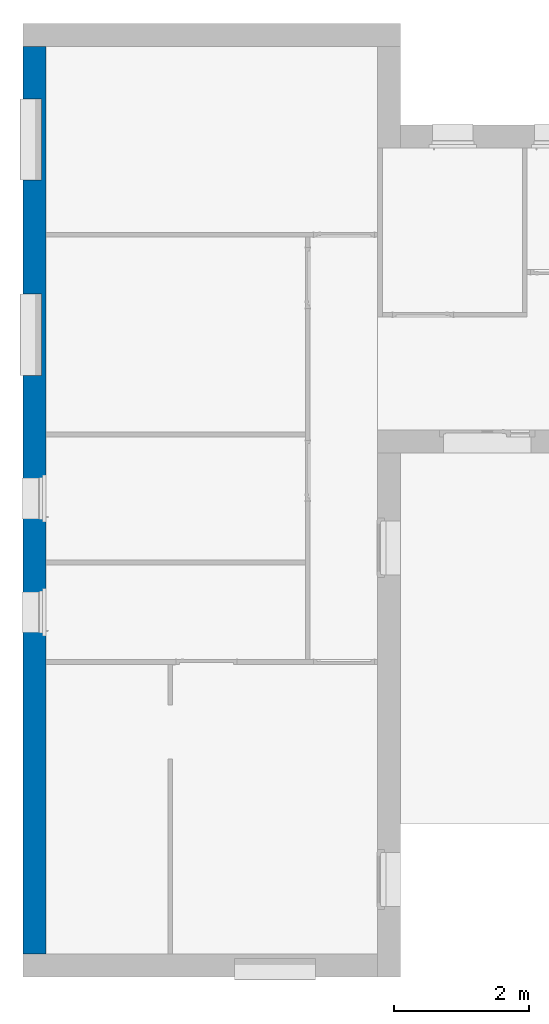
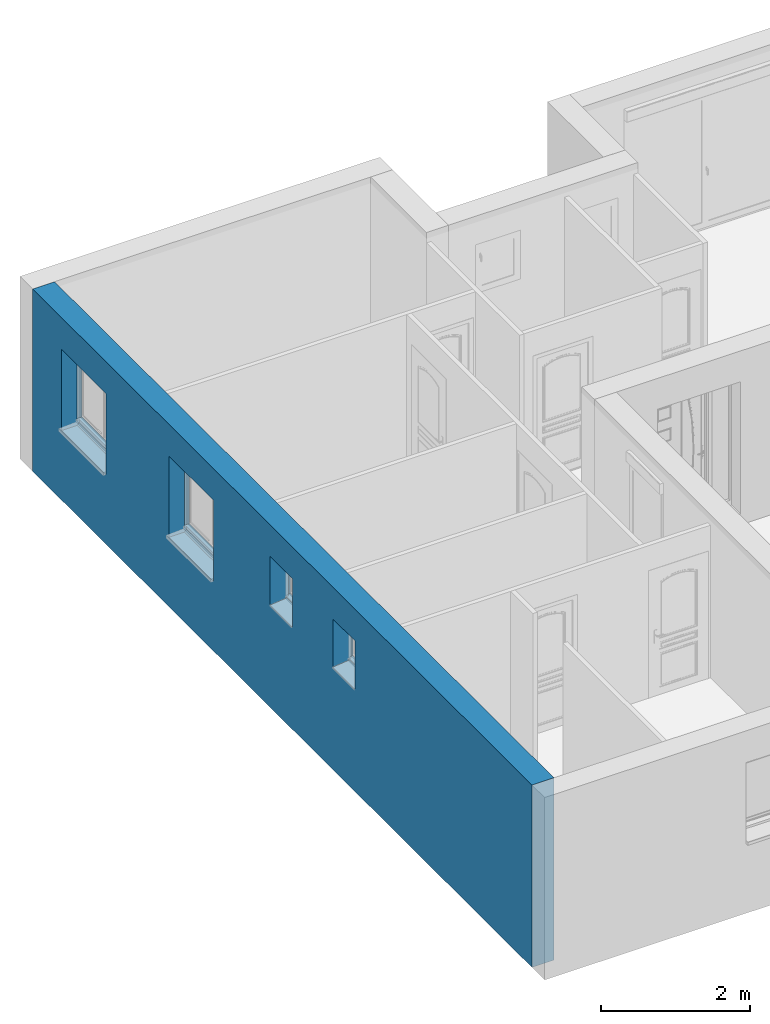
# One storey, part 7 of 23: 1 wall, 4 openings.
"""IFC2X3 building model written with IfcOpenShell, lengths in metres."""

from ifc_helpers import new_model, entity, si_unit, converted_unit, derived_unit, direction, frame, frame_2d, origin, place, context, subcontext, project, spatial, rectangle, extrude, faceted_brep, material, layer, layer_set, layer_usage, type_object, element, save


model = new_model("IFC2X3")

# Units and contexts
model_context = context("Model", 3, precision=1e-05, world=origin(), true_north=direction((6.12303176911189e-17, 1.0)))
body_context = subcontext(model_context, "Body", "Model", "MODEL_VIEW")
ifc_project = project(units=[si_unit("LENGTHUNIT", "METRE"), si_unit("AREAUNIT", "SQUARE_METRE"), si_unit("VOLUMEUNIT", "CUBIC_METRE"), converted_unit("PLANEANGLEUNIT", "DEGREE", entity("IfcRatioMeasure", 0.0174532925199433), si_unit("PLANEANGLEUNIT", "RADIAN"), dimensions=[0, 0, 0, 0, 0, 0, 0]), si_unit("MASSUNIT", "GRAM", prefix="KILO"), derived_unit("MASSDENSITYUNIT", [(si_unit("MASSUNIT", "GRAM", prefix="KILO"), 1), (si_unit("LENGTHUNIT", "METRE"), -3)]), si_unit("TIMEUNIT", "SECOND"), si_unit("FREQUENCYUNIT", "HERTZ"), si_unit("THERMODYNAMICTEMPERATUREUNIT", "DEGREE_CELSIUS"), derived_unit("THERMALTRANSMITTANCEUNIT", [(si_unit("MASSUNIT", "GRAM", prefix="KILO"), 1), (si_unit("THERMODYNAMICTEMPERATUREUNIT", "KELVIN"), -1), (si_unit("TIMEUNIT", "SECOND"), -3)]), derived_unit("VOLUMETRICFLOWRATEUNIT", [(si_unit("LENGTHUNIT", "METRE"), 3), (si_unit("TIMEUNIT", "SECOND"), -1)]), si_unit("ELECTRICCURRENTUNIT", "AMPERE"), si_unit("ELECTRICVOLTAGEUNIT", "VOLT"), si_unit("POWERUNIT", "WATT"), si_unit("FORCEUNIT", "NEWTON", prefix="KILO"), si_unit("ILLUMINANCEUNIT", "LUX"), si_unit("LUMINOUSFLUXUNIT", "LUMEN"), si_unit("LUMINOUSINTENSITYUNIT", "CANDELA"), derived_unit("USERDEFINED", [(si_unit("MASSUNIT", "GRAM", prefix="KILO"), -1), (si_unit("LENGTHUNIT", "METRE"), -2), (si_unit("TIMEUNIT", "SECOND"), 3), (si_unit("LUMINOUSFLUXUNIT", "LUMEN"), 1)]), derived_unit("LINEARVELOCITYUNIT", [(si_unit("LENGTHUNIT", "METRE"), 1), (si_unit("TIMEUNIT", "SECOND"), -1)]), si_unit("PRESSUREUNIT", "PASCAL"), derived_unit("USERDEFINED", [(si_unit("LENGTHUNIT", "METRE"), -2), (si_unit("MASSUNIT", "GRAM", prefix="KILO"), 1), (si_unit("TIMEUNIT", "SECOND"), -2)])], contexts=[model_context])

# Site, building, storey
site_placement = place(None, origin())
site = spatial("IfcSite", under=ifc_project, at=site_placement, Name="Default", CompositionType="ELEMENT")
building_placement = place(site_placement, origin())
building = spatial("IfcBuilding", under=site, at=building_placement, CompositionType="ELEMENT")
storey_placement = place(building_placement, origin())
storey = spatial("IfcBuildingStorey", under=building, at=storey_placement, Name="2 - Rez de Chaussée", CompositionType="ELEMENT", Elevation=-1.94916083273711e-14)

# Wall, openings
ifc_material_1 = material(Name="Maçonnerie - Enduit")
ifc_layer_1 = layer(ifc_material_1, 0.02)
ifc_material_2 = material(Name="Blocs béton manufacturés")
ifc_layer_2 = layer(ifc_material_2, 0.2)
ifc_material_3 = material(Name="TIFE, isolation extérieure")
ifc_layer_3 = layer(ifc_material_3, 0.12)
ifc_layer_set = layer_set([ifc_layer_1, ifc_layer_2, ifc_layer_3], Name="Mur de base:Isolant 10+1 vide 1 Parpaing 20 Enduit 2")
ifc_layer_usage = layer_usage(ifc_layer_set, "AXIS2", "NEGATIVE", 0.17)
wall_type = type_object("IfcWallType", Name="Mur de base:Isolant 10+1 vide 1 Parpaing 20 Enduit 2", PredefinedType="STANDARD", material=ifc_layer_set)
wall_placement = place(storey_placement, frame((-9.76622246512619, -7.11194499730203, -0.32), z_axis=(0.0, 0.0, 1.0), x_axis=(0.0, 1.0, 0.0)))
wall = element("IfcWallStandardCase", 1, at=wall_placement, inside=storey, type_object=wall_type, material=ifc_layer_usage, Name="Mur de base:Isolant 10+1 vide 1 Parpaing 20 Enduit 2", ObjectType="Mur de base:Isolant 10+1 vide 1 Parpaing 20 Enduit 2", context=body_context, shape_type="SweptSolid", body=[
    extrude(rectangle(XDim=13.41, YDim=0.340000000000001, at=frame_2d((6.705, -1.94289029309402e-16), x_axis=(-1.0, 0.0))), origin(), (0.0, 0.0, 1.0), 2.99000000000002),
])
opening_1_placement = place(wall_placement, frame((11.385, 0.499999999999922, 1.14), z_axis=(0.0, 0.0, 1.0), x_axis=(0.0, -1.0, 0.0)))
element("IfcOpeningElement", 2, at=opening_1_placement, cuts=wall, Name="Mur de base:Isolant 10+1 vide 1 Parpaing 20 Enduit 2", ObjectType="Opening", context=body_context, shape_type="Brep", body=[
    faceted_brep([(1.0, 1.25, 1.33), (1.0, 0.0499999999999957, 1.33), (1.0, 0.0499999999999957, 0.0799999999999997), (1.0, 1.25, 0.0799999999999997), (0.0, 1.25, 1.33), (0.0, 1.25, 0.0799999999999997), (0.0, 0.0500000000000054, 0.0799999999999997), (0.0, 0.0500000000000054, 1.33), (0.68300000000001, 1.25, 1.33), (0.683000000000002, 0.0499999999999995, 1.33), (0.683000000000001, 0.0499999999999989, 0.0799999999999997), (0.683000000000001, 0.0100000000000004, 0.0799999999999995), (0.569999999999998, 0.0100000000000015, 0.0799999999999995), (0.569999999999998, 0.05, 0.0799999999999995), (0.604999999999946, 0.0499999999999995, 0.0799999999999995), (0.604999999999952, 1.25, 0.0799999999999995), (0.570000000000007, 1.25, 0.0799999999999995), (0.570000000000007, 1.29, 0.0799999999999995), (0.683000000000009, 1.29, 0.0799999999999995), (0.683000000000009, 1.25, 0.0799999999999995), (0.683000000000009, 1.29, 1.37), (0.683000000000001, 0.010000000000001, 1.37), (0.569999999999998, 0.0100000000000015, 1.37), (0.569999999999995, 0.0, 1.37), (0.569999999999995, 0.0, 1.55), (0.570000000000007, 1.3, 1.55), (0.570000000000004, 1.3, 1.37), (0.570000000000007, 1.29, 1.37), (0.570000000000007, 1.25, 1.33), (0.569999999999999, 0.0500000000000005, 1.33), (0.702999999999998, 0.0, 1.55), (0.702999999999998, 0.0, 1.37), (0.703000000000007, 1.3, 1.55), (0.703000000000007, 1.3, 1.37), (0.569999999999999, 0.0499999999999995, 0.0), (0.570000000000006, 1.25, 0.0), (0.604999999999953, 1.25, 0.0349999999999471), (0.604999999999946, 0.0499999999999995, 0.0349999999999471), (0.284999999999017, 0.0500000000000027, 0.0799999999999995), (0.284999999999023, 1.25, 0.0799999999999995), (0.284999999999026, 1.25, 0.0), (0.284999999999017, 0.0500000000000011, 0.0)], [[[0, 1, 2, 3]], [[4, 5, 6, 7]], [[0, 8, 9, 1]], [[1, 9, 10, 2]], [[2, 10, 11, 12, 13, 14, 15, 16, 17, 18, 19, 3]], [[3, 19, 8, 0]], [[10, 9, 8, 19, 18, 20, 21, 11]], [[11, 21, 22, 12]], [[12, 22, 23, 24, 25, 26, 27, 17, 16, 28, 29, 13]], [[18, 17, 27, 20]], [[30, 24, 23, 31]], [[32, 33, 26, 25]], [[30, 32, 25, 24]], [[23, 22, 21, 20, 27, 26, 33, 31]], [[31, 33, 32, 30]], [[34, 35, 36, 37]], [[37, 36, 15, 14]], [[38, 39, 40, 41]], [[41, 40, 35, 34]], [[4, 28, 16, 15, 36, 35, 40, 39, 5]], [[5, 39, 38, 6]], [[6, 38, 41, 34, 37, 14, 13, 29, 7]], [[7, 29, 28, 4]]]),
])
opening_2_placement = place(wall_placement, frame((8.5, 0.499999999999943, 1.14), z_axis=(0.0, 0.0, 1.0), x_axis=(0.0, -1.0, 0.0)))
element("IfcOpeningElement", 3, at=opening_2_placement, cuts=wall, Name="Mur de base:Isolant 10+1 vide 1 Parpaing 20 Enduit 2", ObjectType="Opening", context=body_context, shape_type="Brep", body=[
    faceted_brep([(1.0, 1.24999999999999, 1.33), (1.0, 0.0499999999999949, 1.33), (1.0, 0.0499999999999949, 0.0799999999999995), (1.0, 1.24999999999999, 0.0799999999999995), (0.0, 1.25, 1.33), (0.0, 1.25, 0.0799999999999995), (0.0, 0.0500000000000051, 0.0799999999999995), (0.0, 0.0500000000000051, 1.33), (0.68300000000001, 1.25, 1.33), (0.683000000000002, 0.0499999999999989, 1.33), (0.683000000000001, 0.0499999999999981, 0.0799999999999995), (0.683000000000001, 0.00999999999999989, 0.0799999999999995), (0.569999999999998, 0.0100000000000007, 0.0799999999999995), (0.569999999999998, 0.0499999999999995, 0.0799999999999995), (0.604999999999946, 0.0499999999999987, 0.0799999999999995), (0.604999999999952, 1.25, 0.0799999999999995), (0.570000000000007, 1.25, 0.0799999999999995), (0.570000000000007, 1.29, 0.0799999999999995), (0.683000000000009, 1.29, 0.0799999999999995), (0.683000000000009, 1.25, 0.0799999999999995), (0.683000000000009, 1.29, 1.37), (0.683000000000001, 0.00999999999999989, 1.37), (0.569999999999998, 0.0100000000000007, 1.37), (0.569999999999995, 0.0, 1.37), (0.569999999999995, 0.0, 1.55), (0.570000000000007, 1.3, 1.55), (0.570000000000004, 1.3, 1.37), (0.570000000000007, 1.29, 1.37), (0.570000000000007, 1.25, 1.33), (0.569999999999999, 0.0499999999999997, 1.33), (0.702999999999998, 0.0, 1.55), (0.702999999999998, 0.0, 1.37), (0.703000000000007, 1.3, 1.55), (0.703000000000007, 1.3, 1.37), (0.569999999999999, 0.0499999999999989, 0.0), (0.570000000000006, 1.25, 0.0), (0.604999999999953, 1.25, 0.0349999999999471), (0.604999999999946, 0.0499999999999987, 0.0349999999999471), (0.284999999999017, 0.0500000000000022, 0.0799999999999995), (0.284999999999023, 1.25, 0.0799999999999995), (0.284999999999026, 1.25, 0.0), (0.284999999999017, 0.0500000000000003, 0.0)], [[[0, 1, 2, 3]], [[4, 5, 6, 7]], [[0, 8, 9, 1]], [[1, 9, 10, 2]], [[2, 10, 11, 12, 13, 14, 15, 16, 17, 18, 19, 3]], [[3, 19, 8, 0]], [[10, 9, 8, 19, 18, 20, 21, 11]], [[11, 21, 22, 12]], [[12, 22, 23, 24, 25, 26, 27, 17, 16, 28, 29, 13]], [[18, 17, 27, 20]], [[30, 24, 23, 31]], [[32, 33, 26, 25]], [[30, 32, 25, 24]], [[23, 22, 21, 20, 27, 26, 33, 31]], [[31, 33, 32, 30]], [[34, 35, 36, 37]], [[37, 36, 15, 14]], [[38, 39, 40, 41]], [[41, 40, 35, 34]], [[4, 28, 16, 15, 36, 35, 40, 39, 5]], [[5, 39, 38, 6]], [[6, 38, 41, 34, 37, 14, 13, 29, 7]], [[7, 29, 28, 4]]]),
])
opening_3_placement = place(wall_placement, frame((6.38000000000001, 0.499999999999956, 1.64298850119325), z_axis=(0.0, 0.0, 1.0), x_axis=(0.0, -1.0, 0.0)))
element("IfcOpeningElement", 4, at=opening_3_placement, cuts=wall, Name="Mur de base:Isolant 10+1 vide 1 Parpaing 20 Enduit 2", ObjectType="Opening", context=body_context, shape_type="Brep", body=[
    faceted_brep([(0.590000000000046, 0.0499999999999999, 0.0770114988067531), (0.569999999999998, 0.05, 0.0770114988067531), (0.569999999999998, 0.05, 0.827011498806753), (0.0, 0.0500000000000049, 0.827011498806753), (0.0, 0.0500000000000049, 0.0), (0.590000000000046, 0.0499999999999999, 0.062011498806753), (1.0, 0.649999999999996, 0.0770114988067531), (0.670000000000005, 0.649999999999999, 0.0770114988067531), (0.670000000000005, 0.649999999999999, 0.827011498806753), (1.0, 0.649999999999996, 0.827011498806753), (1.0, 0.0499999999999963, 0.0770114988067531), (0.67, 0.0499999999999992, 0.0770114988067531), (0.670000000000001, 0.0, 0.0770114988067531), (0.620000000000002, 0.0, 0.0770114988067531), (0.620000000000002, 0.04, 0.0770114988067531), (0.569999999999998, 0.0400000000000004, 0.0770114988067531), (0.590000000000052, 0.65, 0.0770114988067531), (0.570000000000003, 0.65, 0.0770114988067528), (0.570000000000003, 0.66, 0.0770114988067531), (0.620000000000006, 0.66, 0.0770114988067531), (0.620000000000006, 0.699999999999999, 0.0770114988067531), (0.670000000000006, 0.699999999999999, 0.0770114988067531), (1.0, 0.0499999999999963, 0.827011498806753), (0.570000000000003, 0.65, 0.827011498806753), (0.0, 0.650000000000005, 0.827011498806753), (0.0, 0.650000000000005, 0.0), (0.590000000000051, 0.65, 0.062011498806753), (0.670000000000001, 0.0, 0.877011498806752), (0.620000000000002, 0.0, 0.877011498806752), (0.620000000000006, 0.699999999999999, 0.877011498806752), (0.620000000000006, 0.66, 0.837011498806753), (0.620000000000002, 0.0400000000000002, 0.837011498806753), (0.569999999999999, 0.0400000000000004, 0.837011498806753), (0.570000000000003, 0.66, 0.837011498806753), (0.67, 0.0499999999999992, 0.827011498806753), (0.670000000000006, 0.699999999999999, 0.877011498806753)], [[[0, 1, 2, 3, 4, 5]], [[6, 7, 8, 9]], [[10, 11, 12, 13, 14, 15, 1, 0, 16, 17, 18, 19, 20, 21, 7, 6]], [[10, 6, 9, 22]], [[3, 2, 23, 24]], [[3, 24, 25, 4]], [[4, 25, 26, 5]], [[5, 26, 16, 0]], [[12, 27, 28, 13]], [[13, 28, 29, 20, 19, 30, 31, 14]], [[14, 31, 32, 15]], [[15, 32, 33, 18, 17, 23, 2, 1]], [[11, 34, 8, 7, 21, 35, 27, 12]], [[27, 35, 29, 28]], [[30, 33, 32, 31]], [[29, 35, 21, 20]], [[19, 18, 33, 30]], [[9, 8, 34, 22]], [[24, 23, 17, 16, 26, 25]], [[22, 34, 11, 10]]]),
])
opening_4_placement = place(wall_placement, frame((4.70000000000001, 0.499999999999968, 1.64298850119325), z_axis=(0.0, 0.0, 1.0), x_axis=(0.0, -1.0, 0.0)))
element("IfcOpeningElement", 5, at=opening_4_placement, cuts=wall, Name="Mur de base:Isolant 10+1 vide 1 Parpaing 20 Enduit 2", ObjectType="Opening", context=body_context, shape_type="Brep", body=[
    faceted_brep([(0.590000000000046, 0.0499999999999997, 0.0770114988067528), (0.569999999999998, 0.05, 0.0770114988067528), (0.569999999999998, 0.05, 0.827011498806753), (0.0, 0.0500000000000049, 0.827011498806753), (0.0, 0.0500000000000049, 0.0), (0.590000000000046, 0.0499999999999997, 0.062011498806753), (1.0, 0.649999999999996, 0.0770114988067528), (0.670000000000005, 0.649999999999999, 0.0770114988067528), (0.670000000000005, 0.649999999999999, 0.827011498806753), (1.0, 0.649999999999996, 0.827011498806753), (1.0, 0.0499999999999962, 0.0770114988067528), (0.67, 0.0499999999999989, 0.0770114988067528), (0.670000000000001, 0.0, 0.0770114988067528), (0.620000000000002, 0.0, 0.0770114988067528), (0.620000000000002, 0.0400000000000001, 0.0770114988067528), (0.569999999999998, 0.0400000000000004, 0.0770114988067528), (0.590000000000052, 0.649999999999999, 0.0770114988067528), (0.570000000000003, 0.65, 0.0770114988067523), (0.570000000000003, 0.66, 0.0770114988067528), (0.620000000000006, 0.66, 0.0770114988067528), (0.620000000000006, 0.7, 0.0770114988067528), (0.670000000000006, 0.699999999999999, 0.0770114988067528), (1.0, 0.0499999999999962, 0.827011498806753), (0.570000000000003, 0.649999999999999, 0.827011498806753), (0.0, 0.650000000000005, 0.827011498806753), (0.0, 0.650000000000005, 0.0), (0.590000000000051, 0.649999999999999, 0.062011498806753), (0.670000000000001, 0.0, 0.877011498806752), (0.620000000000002, 0.0, 0.877011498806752), (0.620000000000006, 0.699999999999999, 0.877011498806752), (0.620000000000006, 0.66, 0.837011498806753), (0.620000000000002, 0.0400000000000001, 0.837011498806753), (0.569999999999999, 0.0400000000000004, 0.837011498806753), (0.570000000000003, 0.66, 0.837011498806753), (0.67, 0.0499999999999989, 0.827011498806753), (0.670000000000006, 0.699999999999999, 0.877011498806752)], [[[0, 1, 2, 3, 4, 5]], [[6, 7, 8, 9]], [[10, 11, 12, 13, 14, 15, 1, 0, 16, 17, 18, 19, 20, 21, 7, 6]], [[10, 6, 9, 22]], [[3, 2, 23, 24]], [[3, 24, 25, 4]], [[4, 25, 26, 5]], [[5, 26, 16, 0]], [[12, 27, 28, 13]], [[13, 28, 29, 20, 19, 30, 31, 14]], [[14, 31, 32, 15]], [[15, 32, 33, 18, 17, 23, 2, 1]], [[11, 34, 8, 7, 21, 35, 27, 12]], [[27, 35, 29, 28]], [[30, 33, 32, 31]], [[29, 35, 21, 20]], [[19, 18, 33, 30]], [[9, 8, 34, 22]], [[24, 23, 17, 16, 26, 25]], [[22, 34, 11, 10]]]),
])

save(model, "model.ifc")
